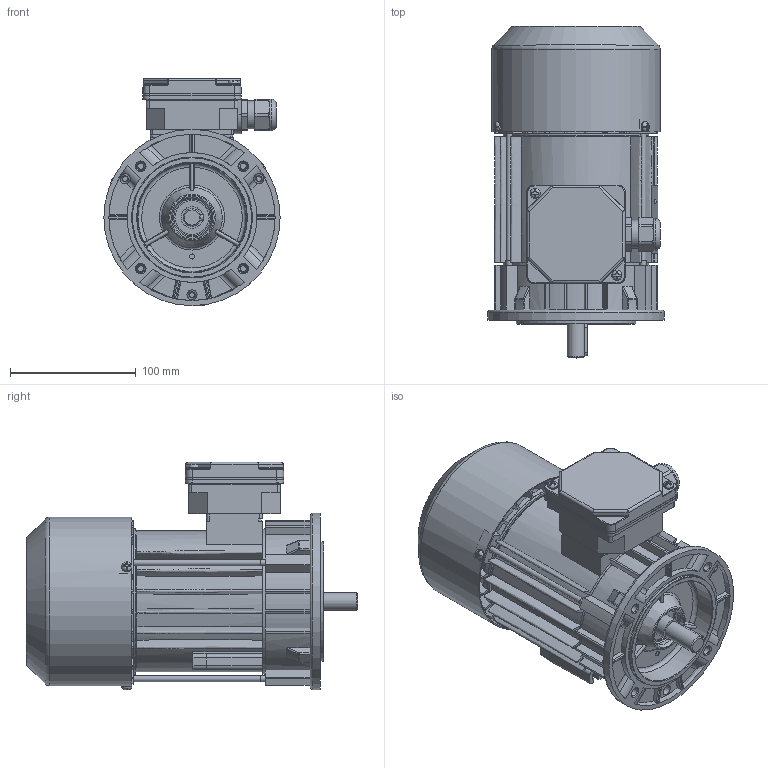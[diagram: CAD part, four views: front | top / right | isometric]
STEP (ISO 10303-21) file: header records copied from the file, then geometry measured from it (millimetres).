
FILE_DESCRIPTION(/* description */ ('Unknown'),/* implementation_level */ '2;1');
FILE_NAME(/* name */ '2SIEK71-6B1',/* time_stamp */ '2021-04-13T15:20:57+02:00',/* author */ ('Unknown'),/* organization */ ('Unknown'),/* preprocessor_version */ 'ST-DEVELOPER v16.7',/* originating_system */ 'Solid Edge',/* authorisation */ 'Unknown');
FILE_SCHEMA (('AUTOMOTIVE_DESIGN {1 0 10303 214 3 1 1}'));
Products named in the file (1): 2SIEK71-6B1
Bounding box: 140 x 263.49 x 180.57 mm (x, y, z)
Volume: 688712.5 mm3; surface area: 421287.7 mm2
Topology: 2 solids, 2 shells, 2378 faces, 6631 edges, 4265 vertices
Faces by surface type: plane 969, cylinder 691, bspline 340, torus 201, cone 145, sphere 32
Full cylindrical faces by diameter (mm): 3.7 x4, 3.8 x4, 4 x3, 4.134 x3, 4.6 x3, 4.8 x2, 5 x5, 5.5 x3, 6.8 x4, 7 x1, 8 x9, 13.999 x1, 15.898 x1, 16.098 x1, 16.498 x1, 16.998 x2, 17.4 x2, 21.998 x2, 22.3 x1, 22.498 x1, 23.098 x1, 23.998 x1, 24.496 x4, 25 x1, 27 x1, 28 x1, 31 x1, 32.502 x4, 36 x2, 40 x3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
Entity records: 101440 total; most frequent: CARTESIAN_POINT 27840, ORIENTED_EDGE 12562, DIRECTION 10915, EDGE_CURVE 6281, AXIS2_PLACEMENT_3D 4145, VERTEX_POINT 4143, FACE_BOUND 2770, EDGE_LOOP 2766
